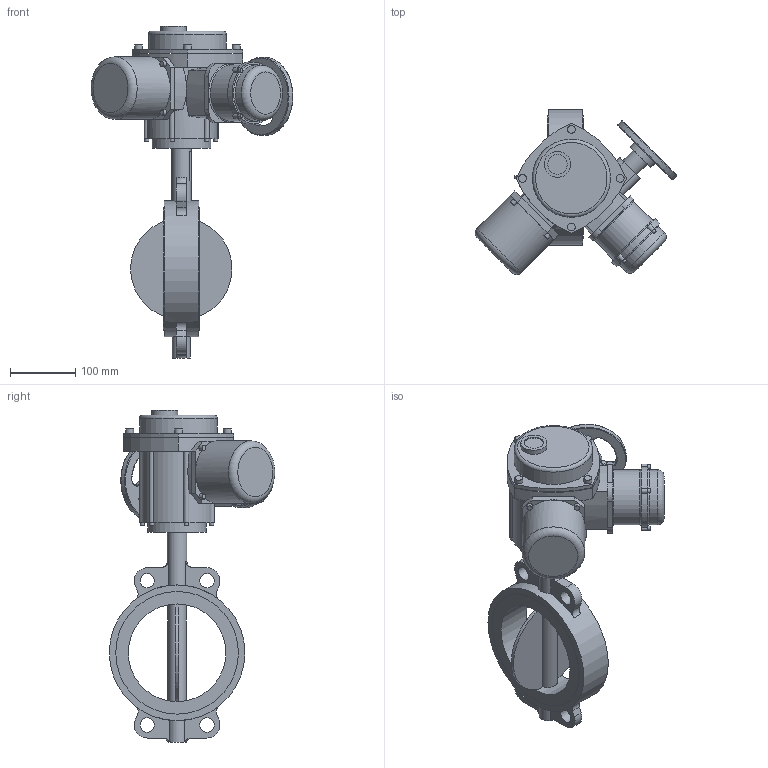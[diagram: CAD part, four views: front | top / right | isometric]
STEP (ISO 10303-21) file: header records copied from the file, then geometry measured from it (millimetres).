
FILE_DESCRIPTION(('STEP AP203'), '1');
FILE_NAME('青蜮铕 017W.Y_DN150_QT.Z 10', '', ('UNSPECIFIED'), ('UNSPECIFIED'), 'ASCON STEP Converter 1.6', 'ASCON Math Kernel', '');
FILE_SCHEMA(('CONFIG_CONTROL_DESIGN'));
Length unit declared in the file: millimetre
Bounding box: 310.08 x 254.18 x 510 mm (x, y, z)
Volume: 4853432.2 mm3; surface area: 419620.8 mm2
Topology: 1 solids, 1 shells, 306 faces, 721 edges, 456 vertices
Faces by surface type: cylinder 141, plane 117, torus 40, cone 8
Full cylindrical faces by diameter (mm): 6 x10, 6.647 x4, 8 x4, 10 x4, 12 x4, 12.386 x1, 22 x4, 30 x3, 40 x1, 45 x1, 85 x2, 90 x1, 96 x1, 120 x2, 150 x1, 188.4 x2, 208.4 x1
Entity records: 13287 total; most frequent: CARTESIAN_POINT 3769, DIRECTION 1584, ORIENTED_EDGE 1306, AXIS2_PLACEMENT_3D 670, EDGE_CURVE 653, VERTEX_POINT 451, EDGE_LOOP 429, CIRCLE 363
